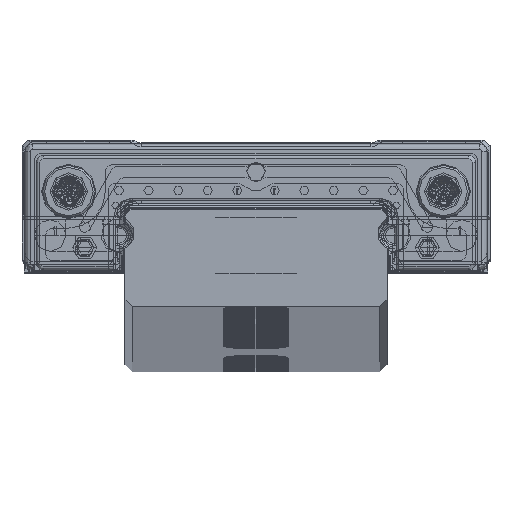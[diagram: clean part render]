
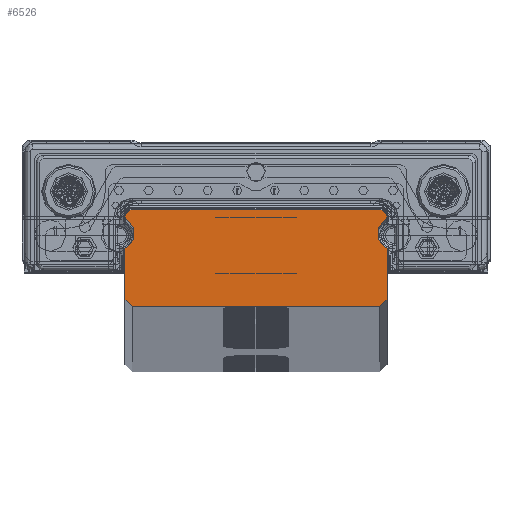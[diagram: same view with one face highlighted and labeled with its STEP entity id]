
A CAD part, top view. The second image highlights one B-rep face of the part: STEP entity #6526.
In plain terms, the highlighted planar face has unit normal (0, 0, 1).
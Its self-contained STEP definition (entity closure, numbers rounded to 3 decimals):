
#1=DIRECTION('',(0.,-1.,0.));
#2=VECTOR('',#1,0.194);
#3=CARTESIAN_POINT('',(-6.975,1.,0.));
#4=LINE('',#3,#2);
#5=DIRECTION('',(-0.707,-0.707,0.));
#6=VECTOR('',#5,0.424);
#7=CARTESIAN_POINT('',(-6.675,1.3,0.));
#8=LINE('',#7,#6);
#9=DIRECTION('',(-1.,0.,0.));
#10=VECTOR('',#9,13.35);
#11=CARTESIAN_POINT('',(6.675,1.3,0.));
#12=LINE('',#11,#10);
#13=DIRECTION('',(-0.707,0.707,0.));
#14=VECTOR('',#13,0.424);
#15=CARTESIAN_POINT('',(6.975,1.,0.));
#16=LINE('',#15,#14);
#17=DIRECTION('',(0.,1.,0.));
#18=VECTOR('',#17,0.194);
#19=CARTESIAN_POINT('',(6.975,0.806,0.));
#20=LINE('',#19,#18);
#21=DIRECTION('',(0.,1.,0.));
#22=VECTOR('',#21,2.682);
#23=CARTESIAN_POINT('',(7.,-3.5,0.));
#24=LINE('',#23,#22);
#25=DIRECTION('',(0.707,0.707,0.));
#26=VECTOR('',#25,0.566);
#27=CARTESIAN_POINT('',(6.6,-3.9,0.));
#28=LINE('',#27,#26);
#29=DIRECTION('',(0.707,-0.707,0.));
#30=VECTOR('',#29,0.566);
#31=CARTESIAN_POINT('',(-7.,-3.5,0.));
#32=LINE('',#31,#30);
#33=DIRECTION('',(0.,-1.,0.));
#34=VECTOR('',#33,2.682);
#35=CARTESIAN_POINT('',(-7.,-0.818,0.));
#36=LINE('',#35,#34);
#37=CARTESIAN_POINT('',(-7.375,0.,0.));
#38=DIRECTION('',(0.,0.,-1.));
#39=DIRECTION('',(0.444,0.896,0.));
#40=AXIS2_PLACEMENT_3D('',#37,#38,#39);
#63=DIRECTION('',(1.,0.,0.));
#64=VECTOR('',#63,13.2);
#65=CARTESIAN_POINT('',(-6.6,-3.9,0.));
#66=LINE('',#65,#64);
#790=CARTESIAN_POINT('',(7.375,0.,0.));
#791=DIRECTION('',(0.,0.,-1.));
#792=DIRECTION('',(-0.417,-0.909,0.));
#793=AXIS2_PLACEMENT_3D('',#790,#791,#792);
#5107=CARTESIAN_POINT('',(-6.675,1.3,0.));
#5108=CARTESIAN_POINT('',(-6.975,1.,0.));
#5109=VERTEX_POINT('',#5107);
#5110=VERTEX_POINT('',#5108);
#5111=CARTESIAN_POINT('',(6.975,1.,0.));
#5112=CARTESIAN_POINT('',(6.675,1.3,0.));
#5113=VERTEX_POINT('',#5111);
#5114=VERTEX_POINT('',#5112);
#5115=CARTESIAN_POINT('',(6.6,-3.9,0.));
#5116=CARTESIAN_POINT('',(7.,-3.5,0.));
#5117=VERTEX_POINT('',#5115);
#5118=VERTEX_POINT('',#5116);
#5119=CARTESIAN_POINT('',(-7.,-3.5,0.));
#5120=CARTESIAN_POINT('',(-6.6,-3.9,0.));
#5121=VERTEX_POINT('',#5119);
#5122=VERTEX_POINT('',#5120);
#6480=CARTESIAN_POINT('',(-6.975,0.806,0.));
#6482=VERTEX_POINT('',#6480);
#6484=CARTESIAN_POINT('',(6.975,0.806,0.));
#6486=VERTEX_POINT('',#6484);
#6488=CARTESIAN_POINT('',(7.,-0.818,0.));
#6490=VERTEX_POINT('',#6488);
#6492=CARTESIAN_POINT('',(-7.,-0.818,0.));
#6494=VERTEX_POINT('',#6492);
#6495=CARTESIAN_POINT('',(0.,0.,0.));
#6496=DIRECTION('',(0.,0.,1.));
#6497=DIRECTION('',(1.,0.,0.));
#6498=AXIS2_PLACEMENT_3D('',#6495,#6496,#6497);
#6499=PLANE('',#6498);
#6501=ORIENTED_EDGE('',*,*,#6500,.F.);
#6503=ORIENTED_EDGE('',*,*,#6502,.F.);
#6505=ORIENTED_EDGE('',*,*,#6504,.F.);
#6507=ORIENTED_EDGE('',*,*,#6506,.F.);
#6509=ORIENTED_EDGE('',*,*,#6508,.F.);
#6511=ORIENTED_EDGE('',*,*,#6510,.F.);
#6513=ORIENTED_EDGE('',*,*,#6512,.F.);
#6515=ORIENTED_EDGE('',*,*,#6514,.F.);
#6517=ORIENTED_EDGE('',*,*,#6516,.F.);
#6519=ORIENTED_EDGE('',*,*,#6518,.F.);
#6521=ORIENTED_EDGE('',*,*,#6520,.F.);
#6523=ORIENTED_EDGE('',*,*,#6522,.F.);
#6524=EDGE_LOOP('',(#6501,#6503,#6505,#6507,#6509,#6511,#6513,#6515,#6517,#6519,
#6521,#6523));
#6525=FACE_OUTER_BOUND('',#6524,.F.);
#6526=ADVANCED_FACE('',(#6525),#6499,.T.);
#41=CIRCLE('',#40,0.9);
#794=CIRCLE('',#793,0.9);
#6500=EDGE_CURVE('',#6482,#6494,#41,.T.);
#6502=EDGE_CURVE('',#5110,#6482,#4,.T.);
#6504=EDGE_CURVE('',#5109,#5110,#8,.T.);
#6506=EDGE_CURVE('',#5114,#5109,#12,.T.);
#6508=EDGE_CURVE('',#5113,#5114,#16,.T.);
#6510=EDGE_CURVE('',#6486,#5113,#20,.T.);
#6512=EDGE_CURVE('',#6490,#6486,#794,.T.);
#6514=EDGE_CURVE('',#5118,#6490,#24,.T.);
#6516=EDGE_CURVE('',#5117,#5118,#28,.T.);
#6518=EDGE_CURVE('',#5122,#5117,#66,.T.);
#6520=EDGE_CURVE('',#5121,#5122,#32,.T.);
#6522=EDGE_CURVE('',#6494,#5121,#36,.T.);
